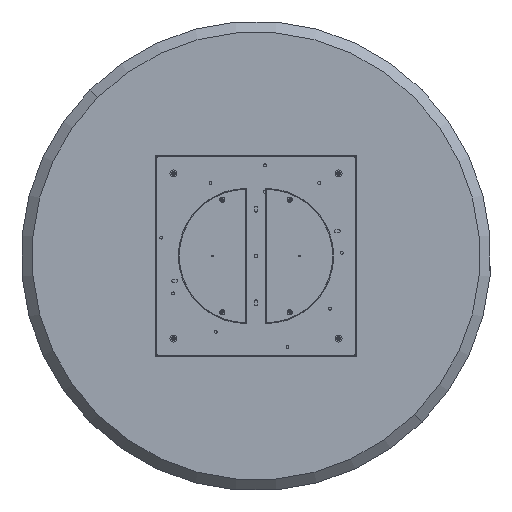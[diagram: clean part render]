
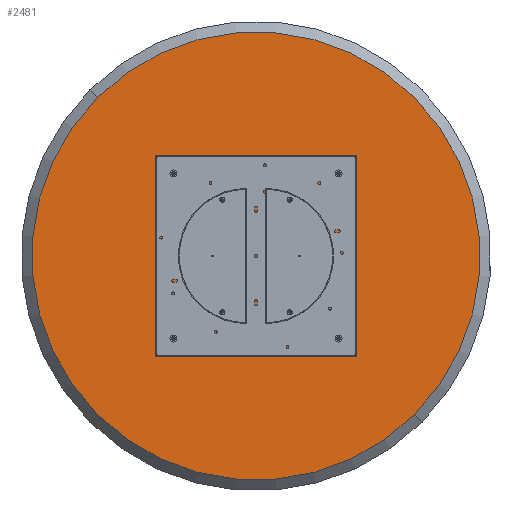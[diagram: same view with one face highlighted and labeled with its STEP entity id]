
A CAD part, front view. The second image highlights one B-rep face of the part: STEP entity #2481.
In plain terms, the highlighted planar face has unit normal (0, -1, 0).
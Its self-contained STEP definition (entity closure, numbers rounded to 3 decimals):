
#279 = CARTESIAN_POINT ( 'NONE',  ( 397.5, 0., 0. ) ) ;
#467 = CARTESIAN_POINT ( 'NONE',  ( 397.5, 0., 3.4 ) ) ;
#686 = DIRECTION ( 'NONE',  ( 0., 0., -1. ) ) ;
#805 = FACE_OUTER_BOUND ( 'NONE', #9725, .T. ) ;
#1055 = VERTEX_POINT ( 'NONE', #467 ) ;
#1815 = EDGE_CURVE ( 'NONE', #4461, #13110, #8450, .T. ) ;
#1828 = ORIENTED_EDGE ( 'NONE', *, *, #8736, .F. ) ;
#1854 = DIRECTION ( 'NONE',  ( 0., 0., -1. ) ) ;
#2284 = EDGE_CURVE ( 'NONE', #12405, #7989, #8461, .T. ) ;
#2302 = EDGE_LOOP ( 'NONE', ( #14216, #7096 ) ) ;
#2328 = CIRCLE ( 'NONE', #4488, 3.4 ) ;
#2411 = VERTEX_POINT ( 'NONE', #14128 ) ;
#2433 = CIRCLE ( 'NONE', #4305, 3.4 ) ;
#2439 = CARTESIAN_POINT ( 'NONE',  ( 0., 0., -394.1 ) ) ;
#2481 = ADVANCED_FACE ( 'NONE', ( #805, #5765, #8190, #13192, #4596 ), #14864, .T. ) ;
#2516 = CARTESIAN_POINT ( 'NONE',  ( 0., 0., 0. ) ) ;
#2572 = CIRCLE ( 'NONE', #7145, 3.4 ) ;
#2702 = VERTEX_POINT ( 'NONE', #12454 ) ;
#2879 = CARTESIAN_POINT ( 'NONE',  ( -397.5, 0., 0. ) ) ;
#3226 = DIRECTION ( 'NONE',  ( 0., -1., 0. ) ) ;
#3419 = EDGE_CURVE ( 'NONE', #2411, #4574, #2328, .T. ) ;
#3670 = CIRCLE ( 'NONE', #12504, 3.4 ) ;
#4305 = AXIS2_PLACEMENT_3D ( 'NONE', #7010, #3226, #4494 ) ;
#4332 = CARTESIAN_POINT ( 'NONE',  ( 0., 0., -397.5 ) ) ;
#4382 = DIRECTION ( 'NONE',  ( 0., -1., 0. ) ) ;
#4419 = AXIS2_PLACEMENT_3D ( 'NONE', #15181, #16527, #12926 ) ;
#4461 = VERTEX_POINT ( 'NONE', #5757 ) ;
#4488 = AXIS2_PLACEMENT_3D ( 'NONE', #14413, #4382, #1854 ) ;
#4494 = DIRECTION ( 'NONE',  ( 0., 0., -1. ) ) ;
#4574 = VERTEX_POINT ( 'NONE', #9956 ) ;
#4596 = FACE_BOUND ( 'NONE', #14006, .T. ) ;
#4698 = ORIENTED_EDGE ( 'NONE', *, *, #3419, .F. ) ;
#4713 = CIRCLE ( 'NONE', #15663, 763. ) ;
#4866 = EDGE_CURVE ( 'NONE', #1055, #2702, #3670, .T. ) ;
#5570 = AXIS2_PLACEMENT_3D ( 'NONE', #4332, #9446, #14518 ) ;
#5583 = CARTESIAN_POINT ( 'NONE',  ( 0., 0., 763. ) ) ;
#5757 = CARTESIAN_POINT ( 'NONE',  ( 0., 0., -763. ) ) ;
#5765 = FACE_BOUND ( 'NONE', #2302, .T. ) ;
#5817 = CIRCLE ( 'NONE', #7949, 3.4 ) ;
#5936 = DIRECTION ( 'NONE',  ( 0., 0., -1. ) ) ;
#6006 = VERTEX_POINT ( 'NONE', #8934 ) ;
#6859 = CARTESIAN_POINT ( 'NONE',  ( 0., 0., 0. ) ) ;
#6916 = CIRCLE ( 'NONE', #5570, 3.4 ) ;
#6968 = DIRECTION ( 'NONE',  ( 0., 0., -1. ) ) ;
#7010 = CARTESIAN_POINT ( 'NONE',  ( 397.5, 0., 0. ) ) ;
#7096 = ORIENTED_EDGE ( 'NONE', *, *, #2284, .F. ) ;
#7119 = AXIS2_PLACEMENT_3D ( 'NONE', #2516, #8498, #16275 ) ;
#7145 = AXIS2_PLACEMENT_3D ( 'NONE', #10906, #13462, #6968 ) ;
#7371 = EDGE_CURVE ( 'NONE', #13110, #4461, #4713, .T. ) ;
#7575 = EDGE_CURVE ( 'NONE', #6006, #9403, #2572, .T. ) ;
#7791 = DIRECTION ( 'NONE',  ( 0., -1., 0. ) ) ;
#7928 = AXIS2_PLACEMENT_3D ( 'NONE', #15546, #7791, #12883 ) ;
#7949 = AXIS2_PLACEMENT_3D ( 'NONE', #2879, #15764, #686 ) ;
#7973 = DIRECTION ( 'NONE',  ( 0., -1., 0. ) ) ;
#7989 = VERTEX_POINT ( 'NONE', #8358 ) ;
#8190 = FACE_BOUND ( 'NONE', #13000, .T. ) ;
#8358 = CARTESIAN_POINT ( 'NONE',  ( 0., 0., -400.9 ) ) ;
#8390 = EDGE_CURVE ( 'NONE', #2702, #1055, #2433, .T. ) ;
#8450 = CIRCLE ( 'NONE', #7119, 763. ) ;
#8461 = CIRCLE ( 'NONE', #7928, 3.4 ) ;
#8498 = DIRECTION ( 'NONE',  ( 0., -1., 0. ) ) ;
#8720 = ORIENTED_EDGE ( 'NONE', *, *, #8390, .F. ) ;
#8736 = EDGE_CURVE ( 'NONE', #9403, #6006, #14290, .T. ) ;
#8934 = CARTESIAN_POINT ( 'NONE',  ( 0., 0., 400.9 ) ) ;
#9403 = VERTEX_POINT ( 'NONE', #12303 ) ;
#9446 = DIRECTION ( 'NONE',  ( 0., -1., 0. ) ) ;
#9725 = EDGE_LOOP ( 'NONE', ( #11518, #9872 ) ) ;
#9872 = ORIENTED_EDGE ( 'NONE', *, *, #1815, .T. ) ;
#9956 = CARTESIAN_POINT ( 'NONE',  ( -397.5, 0., 3.4 ) ) ;
#10262 = EDGE_CURVE ( 'NONE', #4574, #2411, #5817, .T. ) ;
#10523 = DIRECTION ( 'NONE',  ( 0., -1., 0. ) ) ;
#10647 = ORIENTED_EDGE ( 'NONE', *, *, #10262, .F. ) ;
#10719 = DIRECTION ( 'NONE',  ( 0., -1., 0. ) ) ;
#10906 = CARTESIAN_POINT ( 'NONE',  ( 0., 0., 397.5 ) ) ;
#11269 = EDGE_CURVE ( 'NONE', #7989, #12405, #6916, .T. ) ;
#11319 = ORIENTED_EDGE ( 'NONE', *, *, #7575, .F. ) ;
#11518 = ORIENTED_EDGE ( 'NONE', *, *, #7371, .T. ) ;
#11819 = CARTESIAN_POINT ( 'NONE',  ( 0., 0., 0. ) ) ;
#11890 = ORIENTED_EDGE ( 'NONE', *, *, #4866, .F. ) ;
#12303 = CARTESIAN_POINT ( 'NONE',  ( 0., 0., 394.1 ) ) ;
#12405 = VERTEX_POINT ( 'NONE', #2439 ) ;
#12454 = CARTESIAN_POINT ( 'NONE',  ( 397.5, 0., -3.4 ) ) ;
#12504 = AXIS2_PLACEMENT_3D ( 'NONE', #279, #10523, #14589 ) ;
#12883 = DIRECTION ( 'NONE',  ( 0., 0., -1. ) ) ;
#12926 = DIRECTION ( 'NONE',  ( 0., 0., -1. ) ) ;
#13000 = EDGE_LOOP ( 'NONE', ( #4698, #10647 ) ) ;
#13062 = DIRECTION ( 'NONE',  ( 0., 0., -1. ) ) ;
#13110 = VERTEX_POINT ( 'NONE', #5583 ) ;
#13192 = FACE_BOUND ( 'NONE', #15950, .T. ) ;
#13462 = DIRECTION ( 'NONE',  ( 0., -1., 0. ) ) ;
#13782 = AXIS2_PLACEMENT_3D ( 'NONE', #6859, #10719, #5936 ) ;
#14006 = EDGE_LOOP ( 'NONE', ( #1828, #11319 ) ) ;
#14128 = CARTESIAN_POINT ( 'NONE',  ( -397.5, 0., -3.4 ) ) ;
#14216 = ORIENTED_EDGE ( 'NONE', *, *, #11269, .F. ) ;
#14290 = CIRCLE ( 'NONE', #4419, 3.4 ) ;
#14413 = CARTESIAN_POINT ( 'NONE',  ( -397.5, 0., 0. ) ) ;
#14518 = DIRECTION ( 'NONE',  ( 0., 0., -1. ) ) ;
#14589 = DIRECTION ( 'NONE',  ( 0., 0., -1. ) ) ;
#14864 = PLANE ( 'NONE',  #13782 ) ;
#15181 = CARTESIAN_POINT ( 'NONE',  ( 0., 0., 397.5 ) ) ;
#15546 = CARTESIAN_POINT ( 'NONE',  ( 0., 0., -397.5 ) ) ;
#15663 = AXIS2_PLACEMENT_3D ( 'NONE', #11819, #7973, #13062 ) ;
#15764 = DIRECTION ( 'NONE',  ( 0., -1., 0. ) ) ;
#15950 = EDGE_LOOP ( 'NONE', ( #8720, #11890 ) ) ;
#16275 = DIRECTION ( 'NONE',  ( 0., 0., -1. ) ) ;
#16527 = DIRECTION ( 'NONE',  ( 0., -1., 0. ) ) ;
